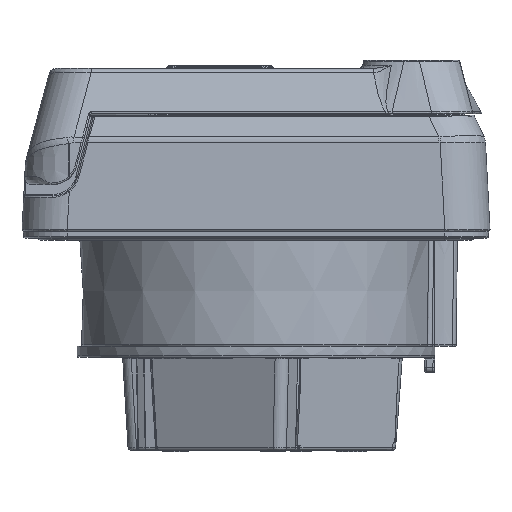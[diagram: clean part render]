
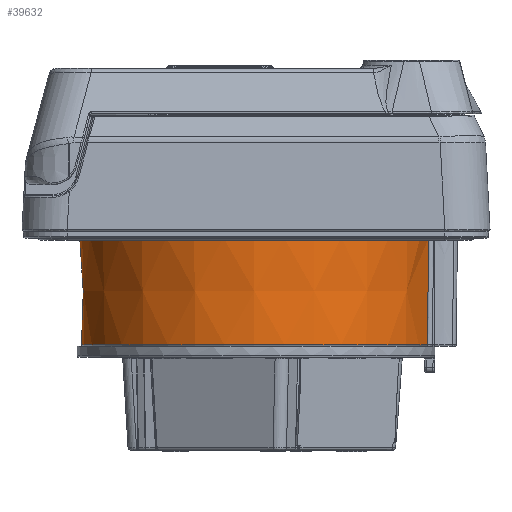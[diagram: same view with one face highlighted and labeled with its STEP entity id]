
A CAD part, left-side view. The second image highlights one B-rep face of the part: STEP entity #39632.
In plain terms, the highlighted conical face has half-angle 1 degrees and reference radius 34.841 mm.
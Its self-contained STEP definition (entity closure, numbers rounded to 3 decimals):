
#10644=CARTESIAN_POINT('',(6.614,-34.018,
-22.605));
#10656=CARTESIAN_POINT('',(0.,0.,-1.3));
#10657=DIRECTION('',(0.,0.,-1.));
#10658=DIRECTION('',(-0.199,-0.98,0.));
#10659=AXIS2_PLACEMENT_3D('',#10656,#10657,#10658);
#10664=CARTESIAN_POINT('',(-6.978,-34.325,-1.3));
#10665=CARTESIAN_POINT('',(-6.937,-34.291,
-3.667));
#10666=CARTESIAN_POINT('',(-6.856,-34.223,
-8.402));
#10667=CARTESIAN_POINT('',(-6.735,-34.121,
-15.503));
#10668=CARTESIAN_POINT('',(-6.655,-34.052,
-20.238));
#10669=CARTESIAN_POINT('',(-6.614,-34.018,
-22.605));
#10674=CARTESIAN_POINT('',(0.,0.,-22.605));
#10675=DIRECTION('',(0.,0.,-1.));
#10676=DIRECTION('',(-0.191,-0.982,0.));
#10677=AXIS2_PLACEMENT_3D('',#10674,#10675,#10676);
#10682=CARTESIAN_POINT('',(6.978,-34.325,-1.3));
#10683=CARTESIAN_POINT('',(6.937,-34.291,
-3.667));
#10684=CARTESIAN_POINT('',(6.856,-34.223,
-8.402));
#10685=CARTESIAN_POINT('',(6.735,-34.121,
-15.503));
#10686=CARTESIAN_POINT('',(6.655,-34.052,
-20.238));
#10687=CARTESIAN_POINT('',(6.614,-34.018,
-22.605));
#10713=CARTESIAN_POINT('',(-6.614,-34.018,
-22.605));
#20423=VERTEX_POINT('',#10644);
#20447=VERTEX_POINT('',#10713);
#21571=CARTESIAN_POINT('',(-6.978,-34.325,
-1.3));
#21572=CARTESIAN_POINT('',(6.978,-34.325,
-1.3));
#21573=VERTEX_POINT('',#21571);
#21574=VERTEX_POINT('',#21572);
#39619=CARTESIAN_POINT('',(0.,0.,-11.953));
#39620=DIRECTION('',(0.,0.,1.));
#39621=DIRECTION('',(1.,0.,0.));
#39622=AXIS2_PLACEMENT_3D('',#39619,#39620,#39621);
#39623=CONICAL_SURFACE('3951',#39622,34.841,1.);
#39624=ORIENTED_EDGE('6556',*,*,#39221,.F.);
#39626=ORIENTED_EDGE('6569',*,*,#39625,.T.);
#39628=ORIENTED_EDGE('5450',*,*,#39627,.T.);
#39629=ORIENTED_EDGE('6568',*,*,#39604,.F.);
#39630=EDGE_LOOP('3951',(#39624,#39626,#39628,#39629));
#39631=FACE_OUTER_BOUND('3951',#39630,.F.);
#10660=CIRCLE('6556',#10659,35.027);
#10670=B_SPLINE_CURVE_WITH_KNOTS('6569',3,(#10664,#10665,#10666,#10667,#10668,
#10669),.UNSPECIFIED.,.F.,.F.,(4,1,1,4),(0.,0.333,
0.667,1.),.UNSPECIFIED.);
#10678=CIRCLE('5450',#10677,34.655);
#10688=B_SPLINE_CURVE_WITH_KNOTS('6568',3,(#10682,#10683,#10684,#10685,#10686,
#10687),.UNSPECIFIED.,.F.,.F.,(4,1,1,4),(0.,0.333,
0.667,1.),.UNSPECIFIED.);
#39221=EDGE_CURVE('6556',#21573,#21574,#10660,.T.);
#39604=EDGE_CURVE('6568',#21574,#20423,#10688,.T.);
#39625=EDGE_CURVE('6569',#21573,#20447,#10670,.T.);
#39627=EDGE_CURVE('5450',#20447,#20423,#10678,.T.);
#39632=ADVANCED_FACE('3951',(#39631),#39623,.T.);
